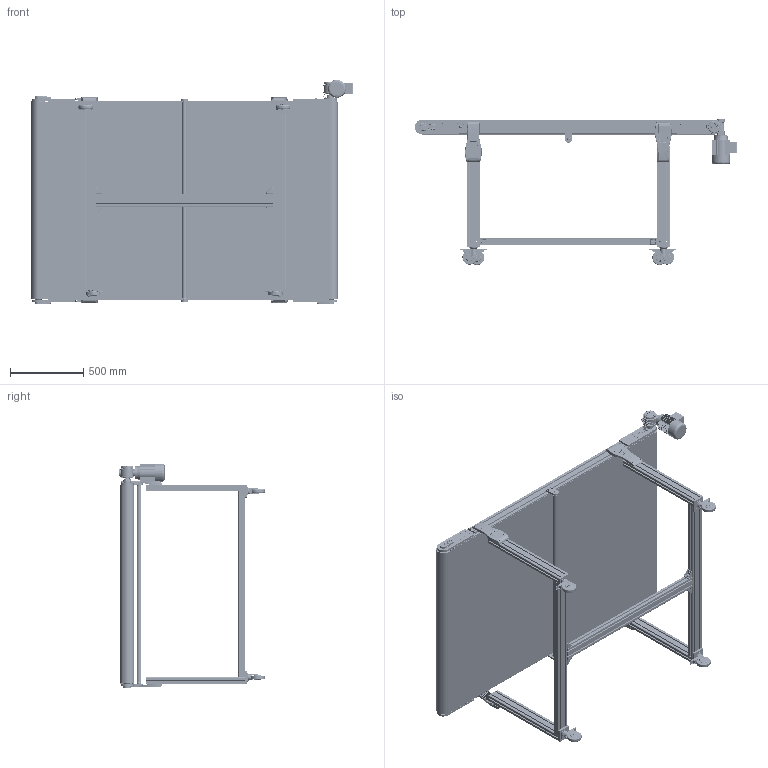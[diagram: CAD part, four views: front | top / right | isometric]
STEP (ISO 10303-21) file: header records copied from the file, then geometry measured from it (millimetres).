
FILE_DESCRIPTION (( 'STEP AP203' ), '1' );
FILE_NAME ('NASTRO_RETTILINEO_TAPPETO.step', '2026-05-06T06:39:35', ( 'Utente Windows' ), ( '' ), 'SwSTEP 2.0', 'SolidWorks 2024', '' );
FILE_SCHEMA (( 'CONFIG_CONTROL_DESIGN' ));
Length unit declared in the file: millimetre
Products named in the file (62): 084.302.000 DADI ALUSIC 13x13-1_084.302.009; 084.802.014; 084.404.004; BLOCCO_TRAINO_95_STANDARD_CON TENDINASTRO E CARTER; 084.802.034_084.802.034; TELAIO_95_CINGHIE_Default<A macchina>; 084.802.019_084.802.019; ANGOLARE_43; 084.803.003; 084.305.003-1; BLOCCO_TRAINO_95_STANDARD_44_DX_dx; 084.802.060_Default<A macchina>; 084.405.002-1-L; 084.802.017_084.802.017; 084.803.018; 084.802.071; TRAVERSA_95_Default<A macchina>; 2010.000.073; RUOTA_95; RULLO_REGGITAPPETO; 084.302.060; 084.802.062; 084.301.000 VITI ALUSIC_084.301.003; VITI TE UNI 5739_M6x16 UNI 5739; CH04P_DX; 084.302.000 DADI ALUSIC 13x13-1_084.302.004; 2010.000.074; 2010.000.072; NASTRO_RETTILINEO_TAPPETO; 084.802.013-2; 084.201.019; 084.808.002_084.808.002; BLOCCO_RINVIO_95_STANDARD_CON TENDINASTRO E CARTER; 084.808.012; 449.014.106; VITI TCEI UNI 5931_M4x25 UNI 5931; GAMBE_D95_Default<A macchina>; LAMIERA_STANDARD; BLOCCO_BRACCIO_CH04P_V2_VF44P V2; VITE_DADO_M5X12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
Assembly tree (194 placements, depth 4):
  NASTRO_RETTILINEO_TAPPETO
    TAPPETO_STANDARD_CINGHIE
    TELAIO_95_CINGHIE_Default<A macchina>
    LAMIERA_STANDARD
    RULLO_95_CINGHIE_Default<A macchina>  x2
    PERNO_95_TRAINO_CINGHIE_44_DX_Default<A macchina>
    BLOCCO_TRAINO_95_STANDARD_44_DX_dx
      084.808.003_084.808.003
      084.302.060  x2
      084.802.034_084.802.034
      084.301.000 VITI ALUSIC_084.301.003  x6
      VITI TCEI UNI 5931_M4x25 UNI 5931  x2
      084.802.067_Default<A macchina>
      BLOCCO_BRACCIO_CH04P_V2_VF44P V2
        084.808.012
        084.802.062
        084.803.018
        VITI TCEI UNI 5931_M6x12 UNI 5931  x4
        VITI TE UNI 5739_M6x16 UNI 5739  x4
        084.802.060_Default<A macchina>
    BLOCCO_TRAINO_95_STANDARD_CON TENDINASTRO E CARTER
      084.808.002_084.808.002
      084.302.060  x2
      084.802.019_084.802.019
      084.301.000 VITI ALUSIC_084.301.003  x6
      VITI TCEI UNI 5931_M4x25 UNI 5931  x2
      084.802.071
      084.802.068
      VITI TSEI UNI 5933_M4x12 UNI 5933  x2
    GUIDA_CINGHIA_Z_95  x4
      449.014.106
      DADO ESAGONALE M30 AUTOBLOCCANTE UNI 7473_M30 UNI 7473
    PERNO_95_RINVIO_CINGHIE
    BLOCCO_RINVIO_95_STANDARD_CON TENDINASTRO E CARTER  x2
      084.808.002_084.808.002
      084.803.003
      084.302.060
      084.802.019_084.802.019
      VITI TSEI UNI 5933_M4x12 UNI 5933
      084.302.000 DADI ALUSIC 13x13-1_084.302.004
      084.301.000 VITI ALUSIC_084.301.003
      084.802.071
    GAMBE_D95_Default<A macchina>  x2
    FLANGIA_GAMBA_95_CON GIUNTI
      2010.000.072
        2010.000.072_L_Default<A macchina>
        2010.000.073
        2010.000.074
      084.302.000 DADI ALUSIC 13x13-1_084.302.004  x6
      RONDELLE UNI 6592_8.4x17 UNI 6592  x7
      084.301.000 VITI ALUSIC1_084.301.003  x7
    FLANGIA_GAMBA_95_CON GIUNTI  x3
      2010.000.072
        2010.000.072_L_Default<A macchina>
        2010.000.073
        2010.000.074
      084.302.000 DADI ALUSIC 13x13-1_084.302.004
      RONDELLE UNI 6592_8.4x17 UNI 6592
      084.301.000 VITI ALUSIC1_084.301.003
    RUOTA_95  x4
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Bounding box: 2204.1 x 996.5 x 1536.5 mm (x, y, z)
Volume: 51157551.8 mm3; surface area: 35365191.7 mm2
Topology: 382 solids, 394 shells, 17120 faces, 44451 edges, 28457 vertices
Faces by surface type: plane 8013, cylinder 4407, bspline 1862, cone 1617, torus 1085, sphere 136
Entity records: 255919 total; most frequent: CARTESIAN_POINT 87080, ORIENTED_EDGE 34692, DIRECTION 31291, EDGE_CURVE 17346, VERTEX_POINT 11142, AXIS2_PLACEMENT_3D 10718, LINE 9855, VECTOR 9855
